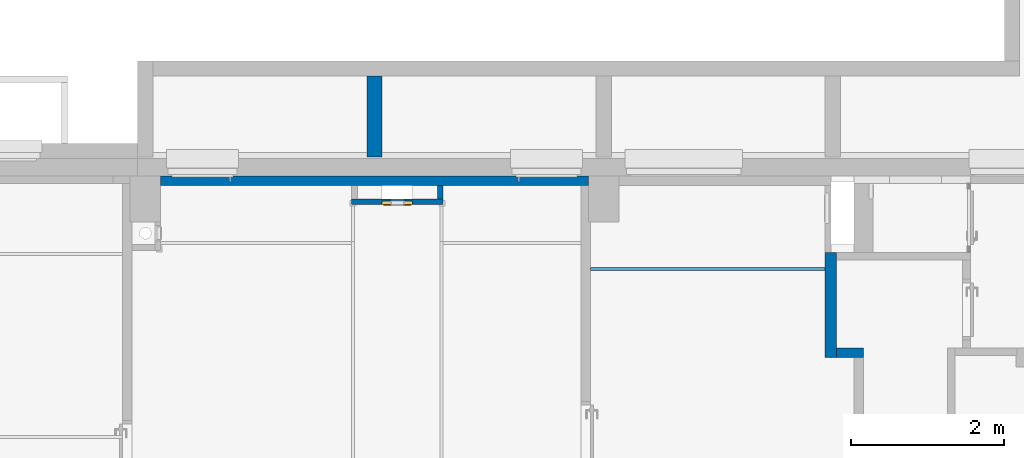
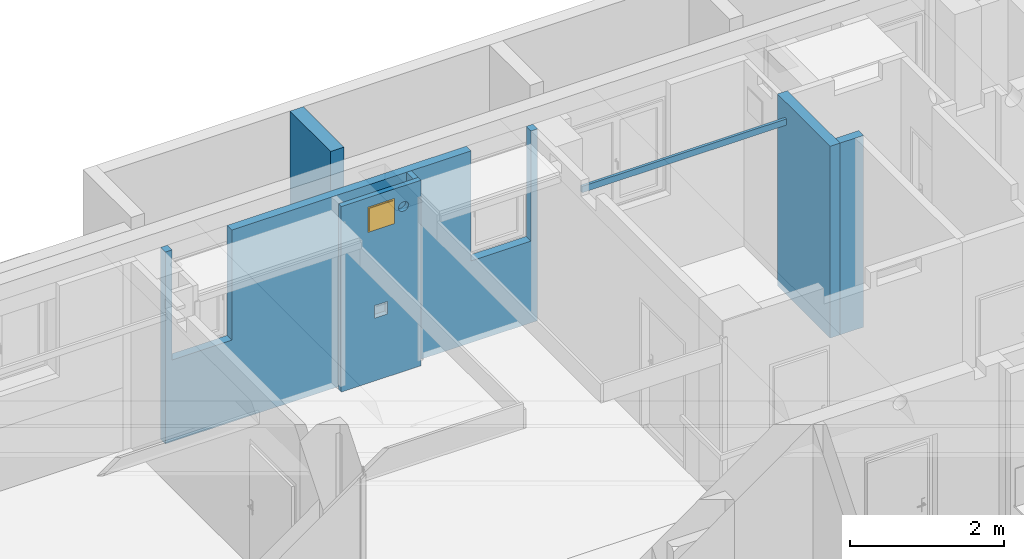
# One storey, part 26 of 84: 7 walls, 1 window, 7 openings.
"""IFC4 building model written with IfcOpenShell, lengths in metres."""

from ifc_helpers import new_model, entity, si_unit, converted_unit, derived_unit, frame, frame_2d, origin, origin_with_axes, place, context, subcontext, project, spatial, polyline, rectangle, outline, extrude, faceted_brep, source, transform, mapped, material, layer, layer_set, layer_usage, element, fill, save


model = new_model("IFC4")

# Units and contexts
model_context = context("Model", 3, precision=1e-05, world=origin())
body_context = subcontext(model_context, "Body", "Model", "MODEL_VIEW")
ifc_project = project(units=[si_unit("LENGTHUNIT", "METRE"), si_unit("AREAUNIT", "SQUARE_METRE"), si_unit("VOLUMEUNIT", "CUBIC_METRE"), si_unit("MASSUNIT", "GRAM", prefix="KILO"), converted_unit("PLANEANGLEUNIT", "DEGREE", entity("IfcPlaneAngleMeasure", 0.0174532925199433), si_unit("PLANEANGLEUNIT", "RADIAN"), dimensions=[0, 0, 0, 0, 0, 0, 0]), derived_unit("THERMALTRANSMITTANCEUNIT", [(si_unit("POWERUNIT", "WATT"), 1), (si_unit("THERMODYNAMICTEMPERATUREUNIT", "KELVIN"), -1), (si_unit("LENGTHUNIT", "METRE"), -2)]), derived_unit("VOLUMETRICFLOWRATEUNIT", [(si_unit("LENGTHUNIT", "METRE"), 3), (converted_unit("TIMEUNIT", "hour", entity("IfcTimeMeasure", 3600.0), si_unit("TIMEUNIT", "SECOND"), dimensions=[0, 0, 1, 0, 0, 0, 0]), -1), (si_unit("LENGTHUNIT", "METRE"), -1)])], contexts=[model_context])

# Site, building, storey
site_placement = place(None, origin())
site = spatial("IfcSite", under=ifc_project, at=site_placement, Name="3. ASŘ", CompositionType="ELEMENT")
building_placement = place(site_placement, origin())
building = spatial("IfcBuilding", under=site, at=building_placement, Name="Pavilon C", CompositionType="ELEMENT")
storey_placement = place(building_placement, frame((0.0, 0.0, -3.3)))
storey = spatial("IfcBuildingStorey", under=building, at=storey_placement, Name="Půdorys 1.PP", CompositionType="ELEMENT", Elevation=-3.3)

# Wall, opening
ifc_material_1 = material(Name="ZELEZOBETONOVÁ KCE")
ifc_layer_1 = layer(ifc_material_1, 0.2)
ifc_layer_set_1 = layer_set([ifc_layer_1])
ifc_layer_usage_1 = layer_usage(ifc_layer_set_1, "AXIS2", "POSITIVE", -0.1)
wall_1_placement = place(storey_placement, frame((15.1, 15.245, -0.4), z_axis=(0.0, 0.0, 1.0), x_axis=(0.0, 1.0, 0.0)))
wall_1 = element("IfcWall", 1, at=wall_1_placement, inside=storey, material=ifc_layer_usage_1, Name="ZELEZOBETONOVÁ KCE", context=body_context, shape_type="SweptSolid", body=[
    extrude(rectangle(XDim=1.06, YDim=0.2, at=frame_2d((0.53, 0.1), x_axis=(1.0, 0.0))), origin_with_axes(), (0.0, 0.0, 1.0), 3.78),
])
opening_1_placement = place(wall_1_placement, frame((0.780000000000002, 0.200000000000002, 0.8), z_axis=(0.0, -1.0, 0.0), x_axis=(0.0, 0.0, 1.0)))
element("IfcOpeningElement", 2, at=opening_1_placement, cuts=wall_1, Name="Prostup stěnou", ObjectType="Opening", context=body_context, shape_type="SweptSolid", body=[
    extrude(outline(polyline([(0.0, 0.4), (0.6, 0.4), (0.6, 0.0), (0.0, 0.0), (0.0, 0.4)])), origin_with_axes(), (0.0, 0.0, 1.0), 0.2),
])

# Wall, openings
ifc_material_2 = material(Name="ZDIVO Z CDm")
ifc_layer_2 = layer(ifc_material_2, 0.125)
ifc_layer_set_2 = layer_set([ifc_layer_2])
ifc_layer_usage_2 = layer_usage(ifc_layer_set_2, "AXIS2", "POSITIVE", 0.0)
wall_2_placement = place(storey_placement, frame((17.8, 15.0, -0.1), z_axis=(0.0, 0.0, 1.0), x_axis=(-1.0, 0.0, 0.0)))
wall_2 = element("IfcWall", 3, at=wall_2_placement, inside=storey, material=ifc_layer_usage_2, Name="ZDIVO Z CDm", context=body_context, shape_type="SweptSolid", body=[
    extrude(rectangle(XDim=5.6, YDim=0.125, at=frame_2d((2.8, 0.0625), x_axis=(1.0, 0.0))), origin_with_axes(), (0.0, 0.0, 1.0), 3.05),
])
opening_2_placement = place(wall_2_placement, frame((5.5, 0.125, 1.3), z_axis=(0.0, -1.0, 0.0), x_axis=(0.0, 0.0, 1.0)))
element("IfcOpeningElement", 4, at=opening_2_placement, cuts=wall_2, Name="Okenní otvor", ObjectType="Opening", context=body_context, shape_type="SweptSolid", body=[
    extrude(outline(polyline([(0.0, 0.9), (1.75, 0.9), (1.75, 0.0), (0.0, 0.0), (0.0, 0.9)])), origin_with_axes(), (0.0, 0.0, 1.0), 0.125),
])
opening_3_placement = place(wall_2_placement, frame((0.999999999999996, 0.125, 1.3), z_axis=(0.0, -1.0, 0.0), x_axis=(0.0, 0.0, 1.0)))
element("IfcOpeningElement", 5, at=opening_3_placement, cuts=wall_2, Name="Okenní otvor", ObjectType="Opening", context=body_context, shape_type="SweptSolid", body=[
    extrude(outline(polyline([(0.0, 0.9), (1.75, 0.9), (1.75, 0.0), (0.0, 0.0), (0.0, 0.9)])), origin_with_axes(), (0.0, 0.0, 1.0), 0.125),
])
opening_4_placement = place(wall_2_placement, frame((2.23810293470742, 0.125, 2.65), z_axis=(0.0, -1.0, 0.0), x_axis=(0.0, 0.0, 1.0)))
element("IfcOpeningElement", 6, at=opening_4_placement, cuts=wall_2, Name="CHL", ObjectType="Opening", context=body_context, shape_type="SweptSolid", body=[
    extrude(outline(polyline([(0.075, 0.0), (0.067160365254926, 0.000410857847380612), (0.0594066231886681, 0.00163892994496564), (0.051823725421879, 0.00367076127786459), (0.0444947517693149, 0.00648409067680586), (0.0375, 0.0100480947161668), (0.0309161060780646, 0.0143237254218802), (0.0248152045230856, 0.0192641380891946), (0.0192641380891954, 0.0248152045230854), (0.014323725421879, 0.0309161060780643), (0.0100480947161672, 0.0375), (0.00648409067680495, 0.0444947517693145), (0.00367076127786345, 0.0518237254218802), (0.00163892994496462, 0.05940662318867), (0.000410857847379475, 0.0671603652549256), (0.0, 0.075), (0.000410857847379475, 0.0828396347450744), (0.00163892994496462, 0.0905933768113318), (0.00367076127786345, 0.0981762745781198), (0.00648409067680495, 0.105505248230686), (0.0100480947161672, 0.1125), (0.014323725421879, 0.119083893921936), (0.0192641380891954, 0.125184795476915), (0.0248152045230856, 0.130735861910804), (0.0309161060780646, 0.13567627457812), (0.0375, 0.139951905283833), (0.0444947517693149, 0.143515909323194), (0.051823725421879, 0.146329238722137), (0.0594066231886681, 0.148361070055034), (0.067160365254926, 0.149589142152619), (0.075, 0.15), (0.082839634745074, 0.149589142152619), (0.0905933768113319, 0.148361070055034), (0.098176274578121, 0.146329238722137), (0.105505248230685, 0.143515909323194), (0.1125, 0.139951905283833), (0.119083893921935, 0.13567627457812), (0.125184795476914, 0.130735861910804), (0.130735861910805, 0.125184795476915), (0.135676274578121, 0.119083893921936), (0.139951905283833, 0.1125), (0.143515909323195, 0.105505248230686), (0.146329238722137, 0.0981762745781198), (0.148361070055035, 0.0905933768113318), (0.149589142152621, 0.0828396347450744), (0.15, 0.075), (0.149589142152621, 0.0671603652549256), (0.148361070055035, 0.05940662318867), (0.146329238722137, 0.0518237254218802), (0.143515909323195, 0.0444947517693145), (0.139951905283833, 0.0375), (0.135676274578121, 0.0309161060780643), (0.130735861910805, 0.0248152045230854), (0.125184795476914, 0.0192641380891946), (0.119083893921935, 0.0143237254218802), (0.1125, 0.0100480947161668), (0.105505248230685, 0.00648409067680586), (0.098176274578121, 0.00367076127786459), (0.0905933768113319, 0.00163892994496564), (0.082839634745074, 0.000410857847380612), (0.075, 0.0)])), origin_with_axes(), (0.0, 0.0, 1.0), 0.125),
])

# Wall
ifc_material_3 = material(Name="SDK SVISLA CAST PODHLEDU")
ifc_layer_3 = layer(ifc_material_3, 0.0400000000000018)
ifc_layer_set_3 = layer_set([ifc_layer_3])
ifc_layer_usage_3 = layer_usage(ifc_layer_set_3, "AXIS2", "POSITIVE", 0.0)
wall_3_placement = place(storey_placement, frame((20.9, 13.8, 2.6), z_axis=(0.0, 0.0, 1.0), x_axis=(-1.0, 0.0, 0.0)))
element("IfcWall", 7, at=wall_3_placement, inside=storey, material=ifc_layer_usage_3, Name="SDK SVISLA CAST PODHLEDU", context=body_context, shape_type="SweptSolid", body=[
    extrude(rectangle(XDim=3.07500000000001, YDim=0.0400000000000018, at=frame_2d((1.5375, 0.0200000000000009), x_axis=(1.0, 0.0))), origin_with_axes(), (0.0, 0.0, 1.0), 0.1),
])

# Wall, openings, window
ifc_material_4 = material(Name="SDK ŠACHTOVÁ STĚNA/SDK OPL. S PO")
ifc_layer_4 = layer(ifc_material_4, 0.075)
ifc_layer_set_4 = layer_set([ifc_layer_4])
ifc_layer_usage_4 = layer_usage(ifc_layer_set_4, "AXIS2", "POSITIVE", 0.0)
wall_4_placement = place(storey_placement, frame((14.7, 14.625, 0.0)))
wall_4 = element("IfcWall", 8, at=wall_4_placement, inside=storey, material=ifc_layer_usage_4, Name="SDK ŠACHTOVÁ STĚNA/SDK OPL. S PO", context=body_context, shape_type="SweptSolid", body=[
    extrude(rectangle(XDim=1.2, YDim=0.075, at=frame_2d((0.6, 0.0375), x_axis=(1.0, 0.0))), origin_with_axes(), (0.0, 0.0, 1.0), 2.95),
])
opening_5_placement = place(wall_4_placement, frame((0.4, 0.0, 2.4), z_axis=(0.0, 1.0, 0.0), x_axis=(0.0, 0.0, 1.0)))
opening_5 = element("IfcOpeningElement", 9, at=opening_5_placement, cuts=wall_4, Name="Okenní otvor", ObjectType="Opening", context=body_context, shape_type="SweptSolid", body=[
    extrude(outline(polyline([(0.0, 0.4), (0.4, 0.4), (0.4, 0.0), (0.0, 0.0), (0.0, 0.4)])), origin_with_axes(), (0.0, 0.0, 1.0), 0.075),
])
opening_6_placement = place(wall_4_placement, frame((0.5, 0.0, 1.0), z_axis=(0.0, 1.0, 0.0), x_axis=(0.0, 0.0, 1.0)))
element("IfcOpeningElement", 10, at=opening_6_placement, cuts=wall_4, Name="Okenní otvor", ObjectType="Opening", context=body_context, shape_type="SweptSolid", body=[
    extrude(outline(polyline([(0.0, 0.2), (0.2, 0.2), (0.2, 0.0), (0.0, 0.0), (0.0, 0.2)])), origin_with_axes(), (0.0, 0.0, 1.0), 0.075),
])
opening_7_placement = place(wall_4_placement, frame((0.861897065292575, 0.0, 2.55), z_axis=(0.0, 1.0, 0.0), x_axis=(0.0, 0.0, 1.0)))
element("IfcOpeningElement", 11, at=opening_7_placement, cuts=wall_4, Name="CHL", ObjectType="Opening", context=body_context, shape_type="SweptSolid", body=[
    extrude(outline(polyline([(0.075, 0.0), (0.067160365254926, 0.000410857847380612), (0.0594066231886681, 0.00163892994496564), (0.051823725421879, 0.00367076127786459), (0.0444947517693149, 0.00648409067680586), (0.0375, 0.0100480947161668), (0.0309161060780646, 0.0143237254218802), (0.0248152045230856, 0.0192641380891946), (0.0192641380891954, 0.0248152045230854), (0.014323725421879, 0.0309161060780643), (0.0100480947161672, 0.0375), (0.00648409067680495, 0.0444947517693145), (0.00367076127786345, 0.0518237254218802), (0.00163892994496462, 0.05940662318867), (0.000410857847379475, 0.0671603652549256), (0.0, 0.075), (0.000410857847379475, 0.0828396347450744), (0.00163892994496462, 0.0905933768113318), (0.00367076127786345, 0.0981762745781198), (0.00648409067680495, 0.105505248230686), (0.0100480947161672, 0.1125), (0.014323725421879, 0.119083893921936), (0.0192641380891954, 0.125184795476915), (0.0248152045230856, 0.130735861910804), (0.0309161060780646, 0.13567627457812), (0.0375, 0.139951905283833), (0.0444947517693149, 0.143515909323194), (0.051823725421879, 0.146329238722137), (0.0594066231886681, 0.148361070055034), (0.067160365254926, 0.149589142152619), (0.075, 0.15), (0.082839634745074, 0.149589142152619), (0.0905933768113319, 0.148361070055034), (0.098176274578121, 0.146329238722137), (0.105505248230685, 0.143515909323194), (0.1125, 0.139951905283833), (0.119083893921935, 0.13567627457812), (0.125184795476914, 0.130735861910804), (0.130735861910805, 0.125184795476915), (0.135676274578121, 0.119083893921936), (0.139951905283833, 0.1125), (0.143515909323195, 0.105505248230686), (0.146329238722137, 0.0981762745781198), (0.148361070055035, 0.0905933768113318), (0.149589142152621, 0.0828396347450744), (0.15, 0.075), (0.149589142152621, 0.0671603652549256), (0.148361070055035, 0.05940662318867), (0.146329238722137, 0.0518237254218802), (0.143515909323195, 0.0444947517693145), (0.139951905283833, 0.0375), (0.135676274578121, 0.0309161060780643), (0.130735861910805, 0.0248152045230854), (0.125184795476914, 0.0192641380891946), (0.119083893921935, 0.0143237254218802), (0.1125, 0.0100480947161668), (0.105505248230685, 0.00648409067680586), (0.098176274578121, 0.00367076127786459), (0.0905933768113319, 0.00163892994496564), (0.082839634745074, 0.000410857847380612), (0.075, 0.0)])), origin_with_axes(), (0.0, 0.0, 1.0), 0.075),
])
shared_shape = source(origin_with_axes(), body_context, "Body", "Brep", [
    faceted_brep([(0.0, 0.06, 0.4), (0.0, 0.06, 4.91096680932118e-19), (0.02, 0.06, 4.91096680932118e-19), (0.02, 0.06, 0.4), (0.0, 0.01, 6.61433067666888e-18), (0.0, 0.0100000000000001, 0.4), (0.02, 0.0100000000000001, 0.4), (0.02, 0.01, 6.61433067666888e-18)], [[[0, 1, 2, 3]], [[4, 5, 6, 7]], [[1, 0, 5, 4]], [[2, 1, 4, 7]], [[3, 2, 7, 6]], [[0, 3, 6, 5]]], orient=[[False], [False], [False], [False], [False], [False]]),
    faceted_brep([(0.38, 0.06, 0.4), (0.38, 0.06, 4.91096680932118e-19), (0.4, 0.06, 4.91096680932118e-19), (0.4, 0.06, 0.4), (0.38, 0.01, 6.61433067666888e-18), (0.38, 0.0100000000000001, 0.4), (0.4, 0.0100000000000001, 0.4), (0.4, 0.01, 6.61433067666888e-18)], [[[0, 1, 2, 3]], [[4, 5, 6, 7]], [[1, 0, 5, 4]], [[2, 1, 4, 7]], [[3, 2, 7, 6]], [[0, 3, 6, 5]]], orient=[[False], [False], [False], [False], [False], [False]]),
    faceted_brep([(0.02, 0.06, 0.02), (0.02, 0.06, 4.91096680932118e-19), (0.38, 0.06, 4.91096680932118e-19), (0.38, 0.06, 0.02), (0.02, 0.01, 6.61433067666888e-18), (0.02, 0.01, 0.02), (0.38, 0.01, 0.02), (0.38, 0.01, 6.61433067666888e-18)], [[[0, 1, 2, 3]], [[4, 5, 6, 7]], [[1, 0, 5, 4]], [[2, 1, 4, 7]], [[3, 2, 7, 6]], [[0, 3, 6, 5]]], orient=[[False], [False], [False], [False], [False], [False]]),
    faceted_brep([(0.02, 0.06, 0.4), (0.02, 0.06, 0.38), (0.38, 0.06, 0.38), (0.38, 0.06, 0.4), (0.02, 0.0100000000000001, 0.38), (0.02, 0.0100000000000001, 0.4), (0.38, 0.0100000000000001, 0.4), (0.38, 0.0100000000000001, 0.38)], [[[0, 1, 2, 3]], [[4, 5, 6, 7]], [[1, 0, 5, 4]], [[2, 1, 4, 7]], [[3, 2, 7, 6]], [[0, 3, 6, 5]]], orient=[[False], [False], [False], [False], [False], [False]]),
    faceted_brep([(0.02, 0.01, 0.38), (0.02, 0.01, 0.02), (0.38, 0.01, 0.02), (0.38, 0.01, 0.38), (0.02, 0.0, 0.02), (0.02, 4.44089209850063e-17, 0.38), (0.38, 4.44089209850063e-17, 0.38), (0.38, 0.0, 0.02)], [[[0, 1, 2, 3]], [[4, 5, 6, 7]], [[1, 0, 5, 4]], [[2, 1, 4, 7]], [[3, 2, 7, 6]], [[0, 3, 6, 5]]], orient=[[False], [False], [False], [False], [False], [False]]),
])
window_placement = place(opening_5_placement, frame((0.0, 0.0, -0.01), z_axis=(1.0, 0.0, 0.0), x_axis=(0.0, 1.0, 0.0)))
window = element("IfcWindow", 12, at=window_placement, inside=storey, OverallHeight=0.4, OverallWidth=0.4, PartitioningType="USERDEFINED", PredefinedType="WINDOW", context=body_context, shape_type="MappedRepresentation", body=[
    mapped(shared_shape, transform((0.0, 0.0, 0.0), x_axis=(1.0, 0.0, 0.0), y_axis=(0.0, 1.0, 0.0), z_axis=(0.0, 0.0, 1.0), scale=1.0)),
])
fill(opening_5, window)

# Walls
ifc_material_5 = material(Name="SDK ŠACHTOVÁ STĚNA/SDK OPL. S PO")
ifc_layer_5 = layer(ifc_material_5, 0.075)
ifc_layer_set_5 = layer_set([ifc_layer_5])
ifc_layer_usage_5 = layer_usage(ifc_layer_set_5, "AXIS2", "POSITIVE", 0.0)
wall_5_placement = place(storey_placement, frame((15.825, 14.875, 0.0), z_axis=(0.0, 0.0, 1.0), x_axis=(0.0, -1.0, 0.0)))
element("IfcWall", 13, at=wall_5_placement, inside=storey, material=ifc_layer_usage_5, Name="SDK ŠACHTOVÁ STĚNA/SDK OPL. S PO", context=body_context, shape_type="SweptSolid", body=[
    extrude(rectangle(XDim=0.175, YDim=0.075, at=frame_2d((0.0875, 0.0375), x_axis=(1.0, 0.0))), origin_with_axes(), (0.0, 0.0, 1.0), 2.95),
])
ifc_material_6 = material(Name="SDK - 1 KCE + DVOJITÉ OPLÁŠTĚNÍ")
ifc_layer_6 = layer(ifc_material_6, 0.15)
ifc_layer_set_6 = layer_set([ifc_layer_6])
ifc_layer_usage_6 = layer_usage(ifc_layer_set_6, "AXIS2", "POSITIVE", 0.0)
wall_6_placement = place(storey_placement, frame((20.9, 14.0, -0.1), z_axis=(0.0, 0.0, 1.0), x_axis=(0.0, -1.0, 0.0)))
element("IfcWall", 14, at=wall_6_placement, inside=storey, material=ifc_layer_usage_6, Name="SDK - 1 KCE + DVOJITÉ OPLÁŠTĚNÍ", context=body_context, shape_type="SweptSolid", body=[
    extrude(rectangle(XDim=1.375, YDim=0.15, at=frame_2d((0.6875, 0.075), x_axis=(1.0, 0.0))), origin_with_axes(), (0.0, 0.0, 1.0), 3.05),
])
ifc_material_7 = material(Name="SDK - 1 KCE + DVOJITÉ OPLÁŠTĚNÍ")
ifc_layer_7 = layer(ifc_material_7, 0.125)
ifc_layer_set_7 = layer_set([ifc_layer_7])
ifc_layer_usage_7 = layer_usage(ifc_layer_set_7, "AXIS2", "POSITIVE", 0.0)
wall_7_placement = place(storey_placement, frame((21.05, 12.625, -0.1)))
element("IfcWall", 15, at=wall_7_placement, inside=storey, material=ifc_layer_usage_7, Name="SDK - 1 KCE + DVOJITÉ OPLÁŠTĚNÍ", context=body_context, shape_type="SweptSolid", body=[
    extrude(rectangle(XDim=0.35, YDim=0.125, at=frame_2d((0.175, 0.0625), x_axis=(1.0, 0.0))), origin_with_axes(), (0.0, 0.0, 1.0), 3.05),
])

save(model, "model.ifc")
